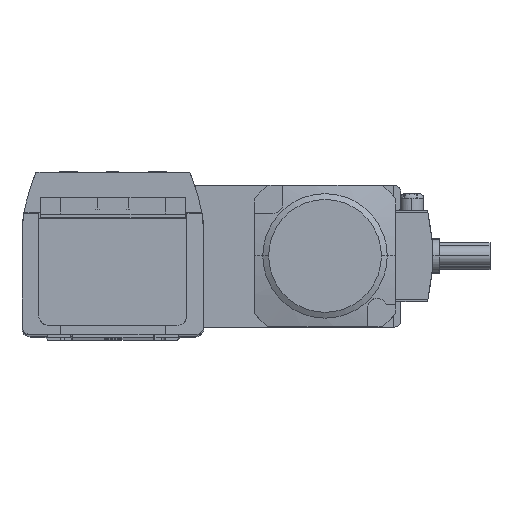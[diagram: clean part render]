
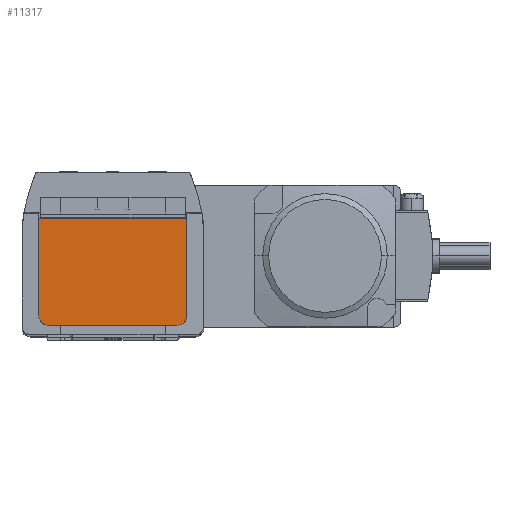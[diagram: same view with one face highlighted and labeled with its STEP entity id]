
A CAD part, top view. The second image highlights one B-rep face of the part: STEP entity #11317.
In plain terms, the highlighted planar face has unit normal (0, 0, 1).
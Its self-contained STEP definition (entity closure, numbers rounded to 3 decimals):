
#7 = DIRECTION ( 'NONE',  ( 0., 1., 0. ) ) ;
#627 = VERTEX_POINT ( 'NONE', #11655 ) ;
#1175 = AXIS2_PLACEMENT_3D ( 'NONE', #19457, #17514, #2799 ) ;
#1444 = EDGE_CURVE ( 'NONE', #21252, #8894, #16884, .T. ) ;
#2799 = DIRECTION ( 'NONE',  ( 1., 0., 0. ) ) ;
#2815 = CARTESIAN_POINT ( 'NONE',  ( 19., -21.3, 418.7 ) ) ;
#3541 = EDGE_CURVE ( 'NONE', #11741, #8143, #12553, .T. ) ;
#3773 = CARTESIAN_POINT ( 'NONE',  ( 19., -18.3, 418.7 ) ) ;
#4366 = VERTEX_POINT ( 'NONE', #4918 ) ;
#4821 = CIRCLE ( 'NONE', #1175, 3. ) ;
#4918 = CARTESIAN_POINT ( 'NONE',  ( -22., 10.4, 418.7 ) ) ;
#5332 = EDGE_CURVE ( 'NONE', #8894, #11741, #21647, .T. ) ;
#6403 = CARTESIAN_POINT ( 'NONE',  ( -19., -21.3, 418.7 ) ) ;
#6447 = ORIENTED_EDGE ( 'NONE', *, *, #3541, .T. ) ;
#6905 = ORIENTED_EDGE ( 'NONE', *, *, #5332, .T. ) ;
#7012 = DIRECTION ( 'NONE',  ( -1., 0., 0. ) ) ;
#7885 = FACE_OUTER_BOUND ( 'NONE', #11950, .T. ) ;
#8143 = VERTEX_POINT ( 'NONE', #20588 ) ;
#8604 = LINE ( 'NONE', #21725, #14180 ) ;
#8626 = ORIENTED_EDGE ( 'NONE', *, *, #24515, .T. ) ;
#8894 = VERTEX_POINT ( 'NONE', #2815 ) ;
#9461 = CARTESIAN_POINT ( 'NONE',  ( -22., -21.3, 418.7 ) ) ;
#10666 = DIRECTION ( 'NONE',  ( 1., 0., 0. ) ) ;
#11317 = ADVANCED_FACE ( 'NONE', ( #7885 ), #23729, .T. ) ;
#11655 = CARTESIAN_POINT ( 'NONE',  ( -22., -18.3, 418.7 ) ) ;
#11741 = VERTEX_POINT ( 'NONE', #14107 ) ;
#11950 = EDGE_LOOP ( 'NONE', ( #21395, #6905, #6447, #25123, #8626, #20642 ) ) ;
#12553 = LINE ( 'NONE', #25800, #21764 ) ;
#12896 = EDGE_CURVE ( 'NONE', #627, #21252, #4821, .T. ) ;
#13554 = LINE ( 'NONE', #16130, #24744 ) ;
#14107 = CARTESIAN_POINT ( 'NONE',  ( 22., -18.3, 418.7 ) ) ;
#14180 = VECTOR ( 'NONE', #7012, 1000. ) ;
#15712 = DIRECTION ( 'NONE',  ( 0., 0., 1. ) ) ;
#16130 = CARTESIAN_POINT ( 'NONE',  ( -22., 10.4, 418.7 ) ) ;
#16184 = DIRECTION ( 'NONE',  ( 1., 0., 0. ) ) ;
#16830 = CARTESIAN_POINT ( 'NONE',  ( -22., -21.3, 418.7 ) ) ;
#16884 = LINE ( 'NONE', #16830, #21837 ) ;
#17514 = DIRECTION ( 'NONE',  ( 0., 0., 1. ) ) ;
#19457 = CARTESIAN_POINT ( 'NONE',  ( -19., -18.3, 418.7 ) ) ;
#20035 = AXIS2_PLACEMENT_3D ( 'NONE', #3773, #22255, #16184 ) ;
#20341 = DIRECTION ( 'NONE',  ( 0., -1., 0. ) ) ;
#20379 = DIRECTION ( 'NONE',  ( 1., 0., 0. ) ) ;
#20391 = AXIS2_PLACEMENT_3D ( 'NONE', #9461, #15712, #10666 ) ;
#20588 = CARTESIAN_POINT ( 'NONE',  ( 22., 10.4, 418.7 ) ) ;
#20642 = ORIENTED_EDGE ( 'NONE', *, *, #12896, .T. ) ;
#21252 = VERTEX_POINT ( 'NONE', #6403 ) ;
#21395 = ORIENTED_EDGE ( 'NONE', *, *, #1444, .T. ) ;
#21647 = CIRCLE ( 'NONE', #20035, 3. ) ;
#21725 = CARTESIAN_POINT ( 'NONE',  ( -22., 10.4, 418.7 ) ) ;
#21764 = VECTOR ( 'NONE', #7, 1000. ) ;
#21837 = VECTOR ( 'NONE', #20379, 1000. ) ;
#22255 = DIRECTION ( 'NONE',  ( 0., 0., 1. ) ) ;
#23729 = PLANE ( 'NONE',  #20391 ) ;
#24515 = EDGE_CURVE ( 'NONE', #4366, #627, #13554, .T. ) ;
#24744 = VECTOR ( 'NONE', #20341, 1000. ) ;
#24887 = EDGE_CURVE ( 'NONE', #8143, #4366, #8604, .T. ) ;
#25123 = ORIENTED_EDGE ( 'NONE', *, *, #24887, .T. ) ;
#25800 = CARTESIAN_POINT ( 'NONE',  ( 22., 10.4, 418.7 ) ) ;
